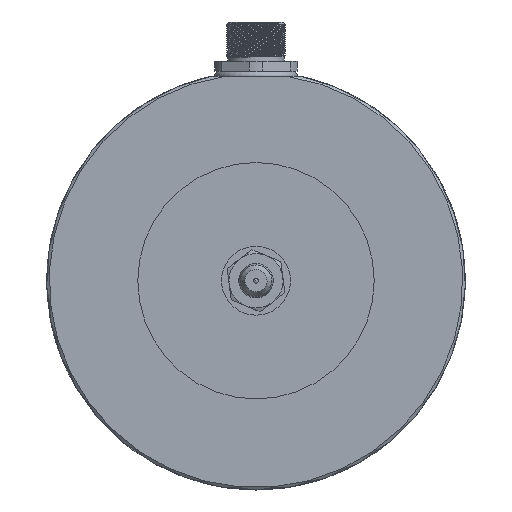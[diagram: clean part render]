
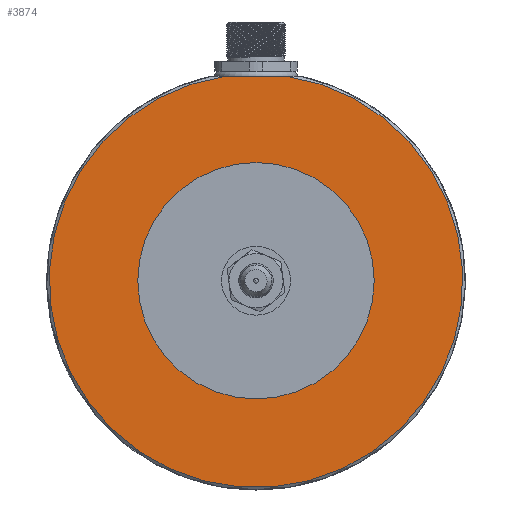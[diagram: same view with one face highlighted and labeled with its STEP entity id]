
A CAD part, left-side view. The second image highlights one B-rep face of the part: STEP entity #3874.
In plain terms, the highlighted planar face has unit normal (-1, 0, 0).
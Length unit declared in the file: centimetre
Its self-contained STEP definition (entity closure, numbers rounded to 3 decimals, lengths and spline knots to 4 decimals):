
#755=PLANE('',#4118);
#846=VECTOR('',#20315,1.);
#1000=LINE('',#5230,#846);
#1242=CIRCLE('',#4113,2.4);
#1248=CIRCLE('',#4126,4.2);
#1532=EDGE_CURVE('',#3279,#3279,#1242,.T.);
#1547=EDGE_CURVE('',#3293,#3292,#1248,.T.);
#1550=EDGE_CURVE('',#3293,#3292,#1000,.T.);
#2078=ORIENTED_EDGE('',*,*,#1532,.T.);
#2079=ORIENTED_EDGE('',*,*,#1547,.F.);
#2080=ORIENTED_EDGE('',*,*,#1550,.T.);
#2974=EDGE_LOOP('',(#2078));
#2975=EDGE_LOOP('',(#2079,#2080));
#3279=VERTEX_POINT('',#5189);
#3292=VERTEX_POINT('',#5217);
#3293=VERTEX_POINT('',#5221);
#3592=FACE_BOUND('',#2974,.T.);
#3593=FACE_BOUND('',#2975,.T.);
#3874=ADVANCED_FACE('',(#3592,#3593),#755,.T.);
#4113=AXIS2_PLACEMENT_3D('',#5188,#20282,#20283);
#4118=AXIS2_PLACEMENT_3D('',#5196,#20291,$);
#4126=AXIS2_PLACEMENT_3D('',#5222,#20305,#20306);
#5188=CARTESIAN_POINT('',(0.,0.,0.));
#5189=CARTESIAN_POINT('',(0.,0.,2.4));
#5196=CARTESIAN_POINT('',(0.,0.,-2.125));
#5217=CARTESIAN_POINT('',(0.,0.6225,4.1536));
#5221=CARTESIAN_POINT('',(0.,-0.6225,4.1536));
#5222=CARTESIAN_POINT('',(0.,0.,0.));
#5230=CARTESIAN_POINT('',(0.,2.775,4.1536));
#20282=DIRECTION('',(1.,0.,0.));
#20283=DIRECTION('',(0.,0.,2.4));
#20291=DIRECTION('',(-1.,0.,0.));
#20305=DIRECTION('',(1.,0.,0.));
#20306=DIRECTION('',(0.,0.,-4.2));
#20315=DIRECTION('',(0.,1.,0.));
